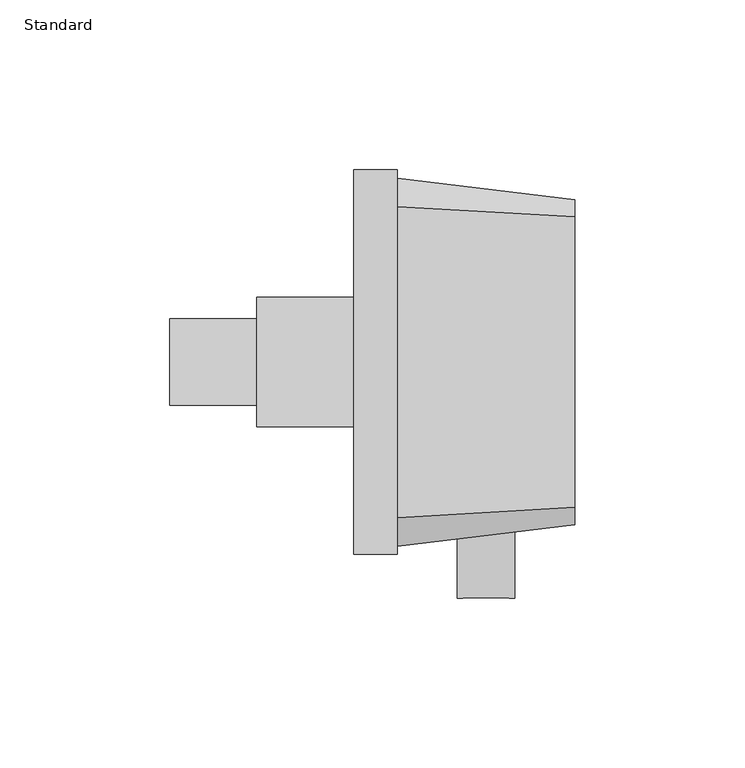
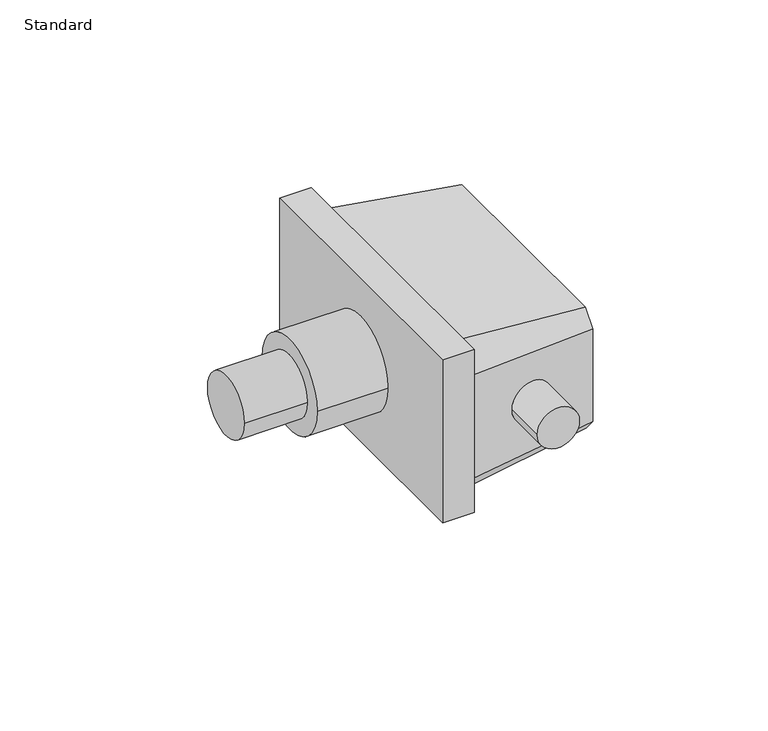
"""IFC4 building model written with IfcOpenShell, lengths in millimetres: proxy geometry, OMAHA - Fuel Solenoid Valve : Standard."""

from ifc_helpers import new_model, si_unit, point, frame, origin, origin_2d, place, context, project, spatial, polyline, circle_curve, ellipse_curve, trimmed, segment, composite_curve, outline, extrude, source, transform, mapped, element, save
from ifc_brep_helpers import plane_surface, cylinder_surface, advanced_brep


def standard_1e469e69(model_context):
    return source(origin(), model_context, "Body", "SolidModel", [
        advanced_brep(
        [(84.4973333, -69.3871759, 0.0), (101.4306667, -69.3871759, 0.0), (84.4973333, -51.9862581, 0.0), (101.4306667, -49.9312419, 0.0), (119.126, -42.7351122, 25.81275), (119.126, -47.78375, 19.6115766), (119.126, -47.78375, -19.6115766), (119.126, -43.3813377, -25.019), (119.126, 43.3813377, -25.019), (119.126, 47.78375, -19.6115766), (119.126, 47.78375, 19.6115766), (119.126, 42.7351122, 25.81275), (66.802, -45.7536764, 32.16275), (66.802, 45.7536764, 32.16275), (66.802, 54.13375, 21.8696192), (66.802, 54.13375, -21.8696192), (66.802, 45.7536764, -32.16275), (66.802, -45.7536764, -32.16275), (66.802, -54.13375, -21.8696192), (66.802, -54.13375, 21.8696192)],
        [
            (0, 1, circle_curve(frame((92.964, -69.3871759, 0.0), z_axis=(0.0, -1.0, 0.0), x_axis=(1.0, 0.0, 0.0)), 8.4666667)),
            (1, 0, circle_curve(frame((92.964, -69.3871759, 0.0), z_axis=(0.0, -1.0, 0.0), x_axis=(1.0, 0.0, 0.0)), 8.4666667)),
            (0, 2),
            (2, 3, ellipse_curve(frame((92.964, -50.95875, 0.0), z_axis=(0.12047528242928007, -0.9927163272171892, 0.0), x_axis=(-0.9927163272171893, -0.12047528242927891, 0.0)), 8.5287876, 8.4666667)),
            (3, 1),
            (3, 2, ellipse_curve(frame((92.964, -50.95875, 0.0), z_axis=(0.12047528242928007, -0.9927163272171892, 0.0), x_axis=(-0.9927163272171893, -0.12047528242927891, 0.0)), 8.5287876, 8.4666667)),
            (4, 5),
            (5, 6),
            (6, 7),
            (7, 8),
            (8, 9),
            (9, 10),
            (10, 11),
            (11, 4),
            (12, 13),
            (13, 14),
            (14, 15),
            (15, 16),
            (16, 17),
            (17, 18),
            (18, 19),
            (19, 12),
            (5, 19),
            (18, 6),
            (7, 17),
            (16, 8),
            (9, 15),
            (14, 10),
            (11, 13),
            (12, 4),
        ],
        [
            plane_surface(frame((101.4306667, -69.3871759, 0.0), z_axis=(0.0, -1.0, 0.0), x_axis=(0.0, 0.0, 1.0))),
            cylinder_surface(frame((92.964, 0.0, 0.0), z_axis=(0.0, -1.0, 0.0), x_axis=(1.0, 0.0, 0.0)), 8.4666667),
            plane_surface(frame((119.126, 0.0, 0.1984375), z_axis=(1.0000000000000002, 0.0, 0.0), x_axis=(0.0, 0.6313594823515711, 0.7754902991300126))),
            plane_surface(frame((66.802, 0.0, 0.0), z_axis=(-1.0000000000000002, 0.0, 0.0), x_axis=(0.0, 0.6313594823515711, 0.7754902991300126))),
            plane_surface(frame((66.802, -54.13375, 0.0), z_axis=(0.12047528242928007, -0.9927163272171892, 0.0), x_axis=(0.0, 0.0, -1.0))),
            plane_surface(frame((66.802, 0.0, -32.16275), z_axis=(0.13527417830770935, 0.0, -0.9908082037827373), x_axis=(0.0, 1.0, 0.0))),
            plane_surface(frame((66.802, 54.13375, 0.0), z_axis=(0.12047528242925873, 0.9927163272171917, 0.0), x_axis=(0.0, 0.0, 1.0))),
            plane_surface(frame((66.802, 0.0, 32.16275), z_axis=(0.12047528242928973, 0.0, 0.9927163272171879), x_axis=(0.0, -1.0, 0.0))),
            plane_surface(frame((66.802, -49.9437132, 27.0161846), z_axis=(0.12047528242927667, -0.7698418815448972, 0.6267608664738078), x_axis=(0.0, -0.6313594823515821, -0.7754902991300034))),
            plane_surface(frame((66.802, -49.9437132, -27.0161846), z_axis=(0.12047528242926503, -0.769841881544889, -0.6267608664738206), x_axis=(0.0, 0.6313594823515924, -0.7754902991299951))),
            plane_surface(frame((66.802, 49.9437132, -27.0161846), z_axis=(0.12047528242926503, 0.7698418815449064, -0.6267608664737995), x_axis=(0.0, 0.6313594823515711, 0.7754902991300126))),
            plane_surface(frame((66.802, 49.9437132, 27.0161846), z_axis=(0.12047528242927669, 0.7698418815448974, 0.6267608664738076), x_axis=(0.0, -0.6313594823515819, 0.7754902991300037))),
        ],
        [
            (0, [[1, 2]]),
            (1, [[-1, 3, 4, 5]]),
            (1, [[-2, -5, 6, -3]]),
            (2, [[7, 8, 9, 10, 11, 12, 13, 14]]),
            (3, [[15, 16, 17, 18, 19, 20, 21, 22]]),
            (4, [[-8, 23, -21, 24], [-4, -6]]),
            (5, [[-10, 25, -19, 26]]),
            (6, [[-12, 27, -17, 28]]),
            (7, [[-14, 29, -15, 30]]),
            (8, [[-7, -30, -22, -23]]),
            (9, [[-9, -24, -20, -25]]),
            (10, [[-11, -26, -18, -27]]),
            (11, [[-13, -28, -16, -29]]),
        ],
    ),
        extrude(outline(polyline([(66.802, 56.515), (66.802, -56.515), (54.102, -56.515), (54.102, 56.515), (66.802, 56.515)])), frame((0.0, 0.0, -34.544), z_axis=(0.0, 0.0, 1.0), x_axis=(1.0, 0.0, 0.0)), (0.0, 0.0, 1.0), 69.088),
        extrude(outline(composite_curve([segment(trimmed(circle_curve(origin_2d(), 19.05), [point((-19.05, 0.0))], [point((19.05, 0.0))], False, "CARTESIAN"), True, "CONTINUOUS"), segment(trimmed(circle_curve(origin_2d(), 19.05), [point((19.05, 0.0))], [point((-19.05, 0.0))], False, "CARTESIAN"), True, "CONTINUOUS")], self_intersect=False)), frame((25.527, 0.0, 0.0), z_axis=(1.0, 0.0, 0.0), x_axis=(0.0, 1.0, 0.0)), (0.0, 0.0, 1.0), 28.575),
        extrude(outline(composite_curve([segment(trimmed(circle_curve(origin_2d(), 12.7), [point((-12.7, 0.0))], [point((12.7, 0.0))], False, "CARTESIAN"), True, "CONTINUOUS"), segment(trimmed(circle_curve(origin_2d(), 12.7), [point((12.7, 0.0))], [point((-12.7, 0.0))], False, "CARTESIAN"), True, "CONTINUOUS")], self_intersect=False)), frame((0.0, 0.0, 0.0), z_axis=(1.0, 0.0, 0.0), x_axis=(0.0, 1.0, 0.0)), (0.0, 0.0, 1.0), 25.527),
    ])


if __name__ == "__main__":
    model = new_model("IFC4")
    model_context = context("Model", 3, world=origin())
    ifc_project = project(units=[si_unit("LENGTHUNIT", "METRE", prefix="MILLI")], contexts=[model_context])
    site = spatial("IfcSite", under=ifc_project)
    building = spatial("IfcBuilding", under=site)
    placement = place(None, origin())
    standard_shape = standard_1e469e69(model_context)
    element("IfcBuildingElementProxy", 1, Name="OMAHA - Fuel Solenoid Valve : Standard", ObjectType="OMAHA - Fuel Solenoid Valve : Standard", at=placement, inside=building, context=model_context, shape_type="MappedRepresentation", body=[
        mapped(standard_shape, transform((0.0, 0.0, 0.0), x_axis=(1.0, 0.0, 0.0), y_axis=(0.0, 1.0, 0.0), z_axis=(0.0, 0.0, 1.0))),
    ])
    save(model, "model.ifc")
